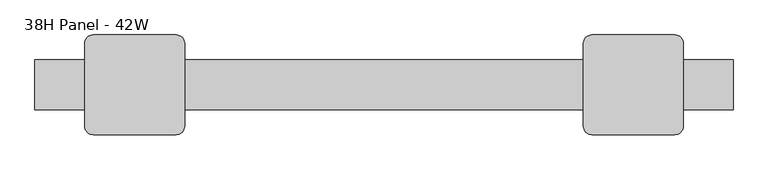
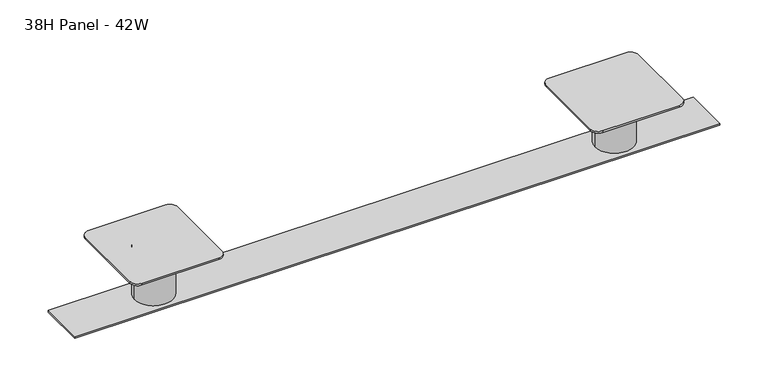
"""IFC4 building model written with IfcOpenShell, lengths in millimetres: furniture geometry, Steelcase - Montage - Healthcare Components - Upmount Transaction Top Brackets : 38H Panel - 42W."""

from ifc_helpers import new_model, si_unit, point, frame, frame_2d, origin, place, context, project, spatial, polyline, circle_curve, trimmed, segment, composite_curve, outline, extrude, source, transform, mapped, element, save


def furniture_38h_panel_42w_ce5f0368(model_context):
    return source(origin(), model_context, "Body", "SweptSolid", [
        extrude(outline(composite_curve([segment(trimmed(circle_curve(frame_2d((38.1, 0.0)), 31.75), [point((6.35, 0.0))], [point((69.85, 0.0))], False, "CARTESIAN"), True, "CONTINUOUS"), segment(trimmed(circle_curve(frame_2d((38.1, 0.0)), 31.75), [point((69.85, 0.0))], [point((6.35, 0.0))], False, "CARTESIAN"), True, "CONTINUOUS")], self_intersect=False)), frame((0.0, 0.0, 962.0249758), z_axis=(0.0, 0.0, 1.0), x_axis=(1.0, 0.0, 0.0)), (0.0, 0.0, 1.0), 82.5500242),
        extrude(outline(composite_curve([segment(trimmed(circle_curve(frame_2d((800.1, 0.0)), 31.75), [point((768.35, 0.0))], [point((831.85, 0.0))], False, "CARTESIAN"), True, "CONTINUOUS"), segment(trimmed(circle_curve(frame_2d((800.1, 0.0)), 31.75), [point((831.85, 0.0))], [point((768.35, 0.0))], False, "CARTESIAN"), True, "CONTINUOUS")], self_intersect=False)), frame((0.0, 0.0, 962.0249758), z_axis=(0.0, 0.0, 1.0), x_axis=(1.0, 0.0, 0.0)), (0.0, 0.0, 1.0), 82.5500242),
        extrude(outline(composite_curve([segment(trimmed(circle_curve(frame_2d((101.6, 63.5)), 12.7), [point((101.6, 76.2))], [point((114.3, 63.5))], False, "CARTESIAN"), True, "CONTINUOUS"), segment(polyline([(114.3, 63.5), (114.3, -63.5)]), True, "CONTINUOUS"), segment(trimmed(circle_curve(frame_2d((101.6, -63.5)), 12.7), [point((114.3, -63.5))], [point((101.6, -76.2))], False, "CARTESIAN"), True, "CONTINUOUS"), segment(polyline([(101.6, -76.2), (-25.4, -76.2)]), True, "CONTINUOUS"), segment(trimmed(circle_curve(frame_2d((-25.4, -63.5)), 12.7), [point((-25.4, -76.2))], [point((-38.1, -63.5))], False, "CARTESIAN"), True, "CONTINUOUS"), segment(polyline([(-38.1, -63.5), (-38.1, 63.5)]), True, "CONTINUOUS"), segment(trimmed(circle_curve(frame_2d((-25.4, 63.5)), 12.7), [point((-38.1, 63.5))], [point((-25.4, 76.2))], False, "CARTESIAN"), True, "CONTINUOUS"), segment(polyline([(-25.4, 76.2), (101.6, 76.2)]), True, "CONTINUOUS")], self_intersect=False)), frame((0.0, 0.0, 1044.575), z_axis=(0.0, 0.0, 1.0), x_axis=(1.0, 0.0, 0.0)), (0.0, 0.0, 1.0), 3.1749758),
        extrude(outline(composite_curve([segment(polyline([(736.6, 76.2), (863.6, 76.2)]), True, "CONTINUOUS"), segment(trimmed(circle_curve(frame_2d((863.6, 63.5)), 12.7), [point((863.6, 76.2))], [point((876.3, 63.5))], False, "CARTESIAN"), True, "CONTINUOUS"), segment(polyline([(876.3, 63.5), (876.3, -63.5)]), True, "CONTINUOUS"), segment(trimmed(circle_curve(frame_2d((863.6, -63.5)), 12.7), [point((876.3, -63.5))], [point((863.6, -76.2))], False, "CARTESIAN"), True, "CONTINUOUS"), segment(polyline([(863.6, -76.2), (736.6, -76.2)]), True, "CONTINUOUS"), segment(trimmed(circle_curve(frame_2d((736.6, -63.5)), 12.7), [point((736.6, -76.2))], [point((723.9, -63.5))], False, "CARTESIAN"), True, "CONTINUOUS"), segment(polyline([(723.9, -63.5), (723.9, 63.5)]), True, "CONTINUOUS"), segment(trimmed(circle_curve(frame_2d((736.6, 63.5)), 12.7), [point((723.9, 63.5))], [point((736.6, 76.2))], False, "CARTESIAN"), True, "CONTINUOUS")], self_intersect=False)), frame((0.0, 0.0, 1044.575), z_axis=(0.0, 0.0, 1.0), x_axis=(1.0, 0.0, 0.0)), (0.0, 0.0, 1.0), 3.1749758),
        extrude(outline(polyline([(952.5, -38.1), (-114.3, -38.1), (-114.3, 38.1), (952.5, 38.1), (952.5, -38.1)])), frame((0.0, 0.0, 958.85), z_axis=(0.0, 0.0, 1.0), x_axis=(1.0, 0.0, 0.0)), (0.0, 0.0, 1.0), 3.1749758),
    ])


if __name__ == "__main__":
    model = new_model("IFC4")
    model_context = context("Model", 3, world=origin())
    ifc_project = project(units=[si_unit("LENGTHUNIT", "METRE", prefix="MILLI")], contexts=[model_context])
    site = spatial("IfcSite", under=ifc_project)
    building = spatial("IfcBuilding", under=site)
    placement = place(None, origin())
    furniture_38h_panel_42w_shape = furniture_38h_panel_42w_ce5f0368(model_context)
    element("IfcFurniture", 1, ObjectType="Steelcase - Montage - Healthcare Components - Upmount Transaction Top Brackets : 38H Panel - 42W", at=placement, inside=building, context=model_context, shape_type="MappedRepresentation", body=[
        mapped(furniture_38h_panel_42w_shape, transform((0.0, 0.0, 0.0), x_axis=(1.0, 0.0, 0.0), y_axis=(0.0, 1.0, 0.0), z_axis=(0.0, 0.0, 1.0))),
    ])
    save(model, "model.ifc")
